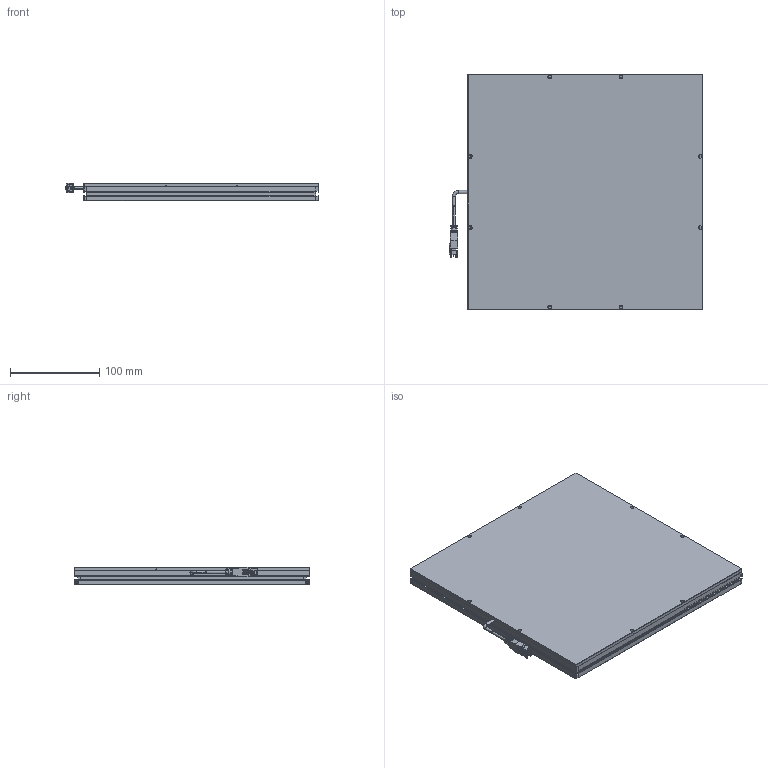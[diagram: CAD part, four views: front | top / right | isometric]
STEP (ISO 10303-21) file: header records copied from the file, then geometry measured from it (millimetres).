
FILE_DESCRIPTION (( 'STEP AP203' ), '1' );
FILE_NAME ('CRT-2FLD250250-¼òÒ×3DÍ¼.STEP', '2021-11-24T01:02:34', ( 'Admin' ), ( '' ), 'SwSTEP 2.0', 'SolidWorks 2018', '' );
FILE_SCHEMA (( 'CONFIG_CONTROL_DESIGN' ));
Length unit declared in the file: millimetre
Products named in the file (1): CRT-2FLD250250-潠眢3D芞
Bounding box: 284.95 x 264 x 20 mm (x, y, z)
Surface area: 173379 mm2 (no closed solid volume)
Topology: 0 solids, 10 shells, 300 faces, 1021 edges, 701 vertices
Faces by surface type: plane 174, cylinder 104, cone 11, bspline 10, torus 1
Entity records: 11416 total; most frequent: CARTESIAN_POINT 2664, DIRECTION 1817, ORIENTED_EDGE 1618, EDGE_CURVE 1017, VERTEX_POINT 701, LINE 673, VECTOR 673, AXIS2_PLACEMENT_3D 572
